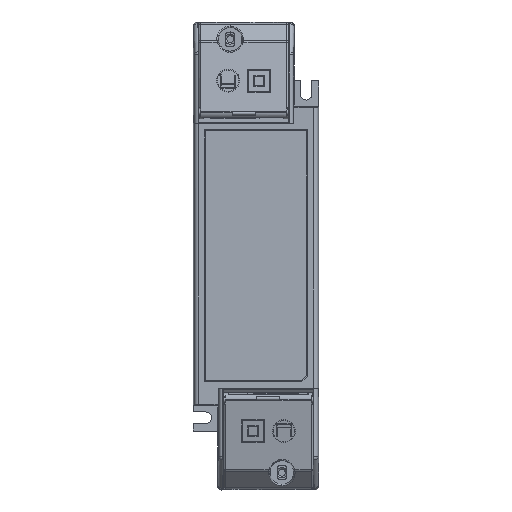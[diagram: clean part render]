
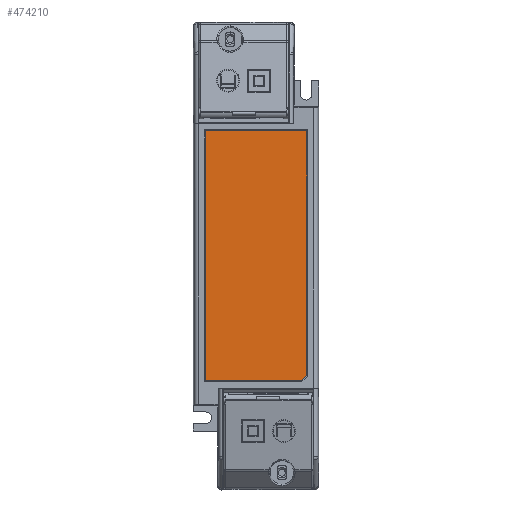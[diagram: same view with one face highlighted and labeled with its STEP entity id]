
A CAD part, top view. The second image highlights one B-rep face of the part: STEP entity #474210.
In plain terms, the highlighted planar face has unit normal (0, 0, 1) as drawn and (0, 1, 0) by its records, which use the part's own axes.
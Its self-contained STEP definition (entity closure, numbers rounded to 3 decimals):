
#472980=CARTESIAN_POINT('',(17.7,23.,-43.7));
#472990=VERTEX_POINT('',#472980);
#473020=CARTESIAN_POINT('',(-17.7,23.,-43.7));
#473030=DIRECTION('',(1.,0.,0.));
#473040=VECTOR('',#473030,1.);
#473050=LINE('',#473020,#473040);
#473060=CARTESIAN_POINT('',(-17.7,23.,-43.7));
#473070=VERTEX_POINT('',#473060);
#473080=EDGE_CURVE('',#473070,#472990,#473050,.T.);
#473250=CARTESIAN_POINT('',(17.7,23.,-43.7));
#473260=DIRECTION('',(0.,0.,1.));
#473270=VECTOR('',#473260,1.);
#473280=LINE('',#473250,#473270);
#473290=CARTESIAN_POINT('',(17.7,23.,41.876));
#473300=VERTEX_POINT('',#473290);
#473310=EDGE_CURVE('',#472990,#473300,#473280,.T.);
#473490=CARTESIAN_POINT('',(15.876,23.,43.7));
#473500=DIRECTION('',(0.707,0.,-0.707));
#473510=VECTOR('',#473500,1.);
#473520=LINE('',#473490,#473510);
#473530=CARTESIAN_POINT('',(15.876,23.,43.7));
#473540=VERTEX_POINT('',#473530);
#473550=EDGE_CURVE('',#473540,#473300,#473520,.T.);
#473770=CARTESIAN_POINT('',(-17.7,23.,43.7));
#473780=VERTEX_POINT('',#473770);
#473810=CARTESIAN_POINT('',(15.876,23.,43.7));
#473820=DIRECTION('',(-1.,0.,0.));
#473830=VECTOR('',#473820,1.);
#473840=LINE('',#473810,#473830);
#473850=EDGE_CURVE('',#473540,#473780,#473840,.T.);
#474000=CARTESIAN_POINT('',(-17.7,23.,-43.7));
#474010=DIRECTION('',(0.,0.,1.));
#474020=VECTOR('',#474010,1.);
#474030=LINE('',#474000,#474020);
#474040=EDGE_CURVE('',#473070,#473780,#474030,.T.);
#474090=CARTESIAN_POINT('',(21.399,23.,-52.599));
#474100=DIRECTION('',(-0.,1.,0.));
#474110=DIRECTION('',(1.,0.,0.));
#474120=AXIS2_PLACEMENT_3D('',#474090,#474100,#474110);
#474130=PLANE('',#474120);
#474140=ORIENTED_EDGE('',*,*,#474040,.T.);
#474150=ORIENTED_EDGE('',*,*,#473080,.F.);
#474160=ORIENTED_EDGE('',*,*,#473310,.F.);
#474170=ORIENTED_EDGE('',*,*,#473550,.T.);
#474180=ORIENTED_EDGE('',*,*,#473850,.F.);
#474190=EDGE_LOOP('',(#474180,#474170,#474160,#474150,#474140));
#474200=FACE_OUTER_BOUND('',#474190,.T.);
#474210=ADVANCED_FACE('',(#474200),#474130,.T.);
